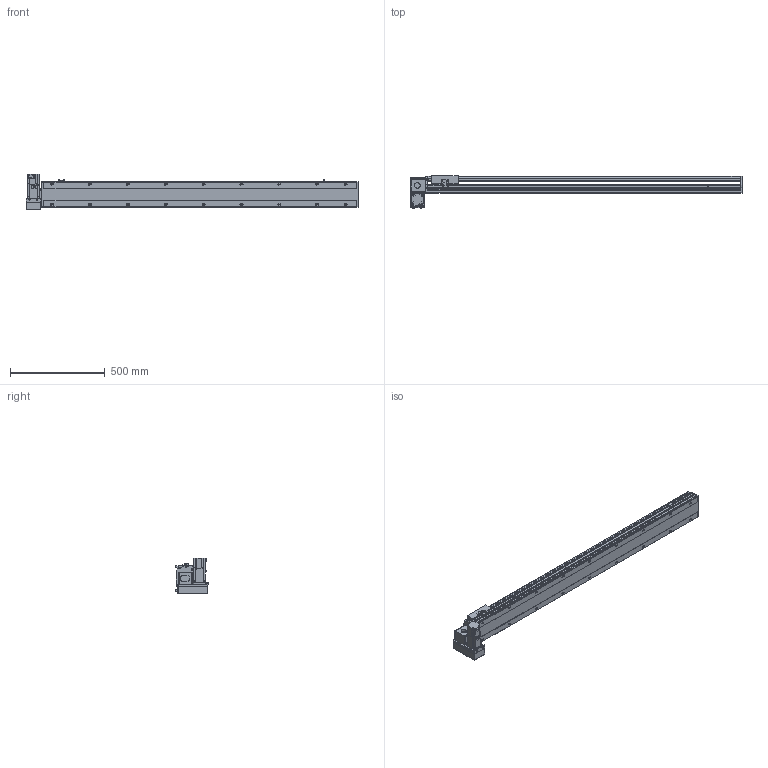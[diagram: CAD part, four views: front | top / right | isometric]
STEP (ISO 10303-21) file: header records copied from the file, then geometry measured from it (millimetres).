
FILE_DESCRIPTION( ( 'STEP AP214' ), '1' );
FILE_NAME( 'x:/temp/worker_6/temp/exporttempdir_5396_100_jJW25/format_0/PBS140S-P40-S1400-LD-T40-C1-N(0).stp', '2022-06-09T00:25:22', ( 'License CC BY-ND 4.0' ), ( 'CADENAS' ), ' ', 'PARTsolutions', ' ' );
FILE_SCHEMA( ( 'AUTOMOTIVE_DESIGN { 1 0 10303 214 1 1 1 1 }' ) );
Length unit declared in the file: millimetre
Products named in the file (7): PBS140S-P40-S1400-LD-T40-C1-N(0); _PBS140S-S1400()_body; _PBS140ST-LD_motors; _T40-p1; _PBS140S_sliser; _PBS140S_plant; _PBS140S_sensor
Assembly tree (8 placements, depth 2):
  PBS140S-P40-S1400-LD-T40-C1-N(0)
    _PBS140S-S1400()_body
    _PBS140ST-LD_motors
    _T40-p1
    _PBS140S_sliser
    _PBS140S_plant
    _PBS140S_sensor  x3
Bounding box: 1754 x 172.5 x 189.7 mm (x, y, z)
Volume: 8861379.9 mm3; surface area: 1516985.5 mm2
Topology: 8 solids, 8 shells, 1115 faces, 2951 edges, 1931 vertices
Faces by surface type: plane 708, cylinder 353, cone 44, sphere 8, torus 2
Full cylindrical faces by diameter (mm): 3.242 x4, 4 x2, 4.134 x4, 4.4 x8, 4.5 x2, 4.8 x4, 4.917 x26, 5.5 x7, 6 x2, 7 x20, 7.5 x8, 8 x12, 8.5 x4, 10.5 x18, 14 x1, 30 x2, 50 x2
Entity records: 40978 total; most frequent: CARTESIAN_POINT 6574, DIRECTION 5418, ORIENTED_EDGE 5122, EDGE_CURVE 2561, AXIS2_PLACEMENT_3D 1889, VERTEX_POINT 1777, LINE 1640, VECTOR 1640
